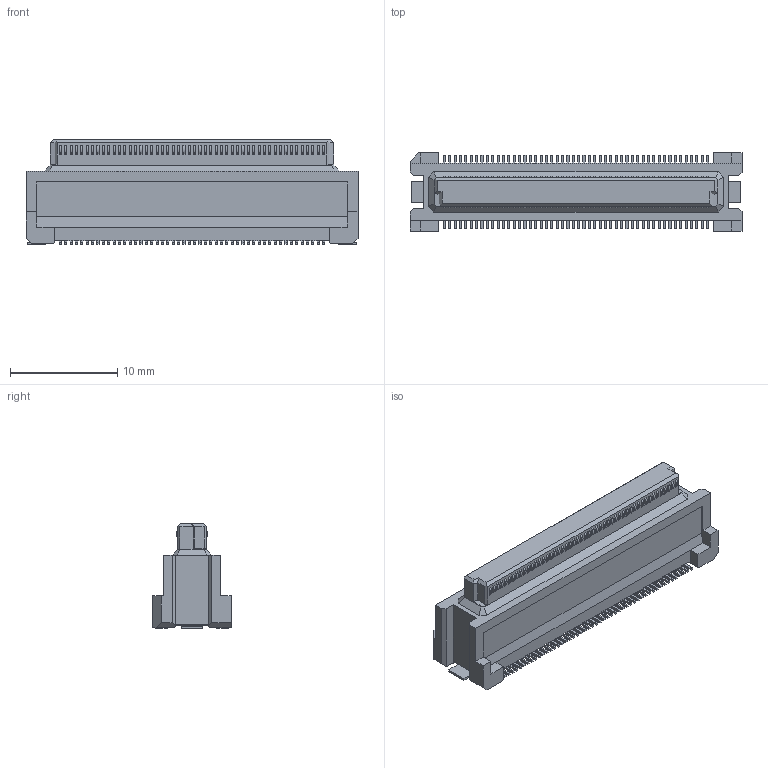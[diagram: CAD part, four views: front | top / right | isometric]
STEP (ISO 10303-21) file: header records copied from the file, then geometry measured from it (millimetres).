
FILE_DESCRIPTION(('Creo Elements/Direct Modeling STEP Export'),'2;1');
FILE_NAME('DY10-100FS-1.stp','2017-11-28T11:39:39',(''),(''),'Creo Elements/Direct Modeling STEP processor for AP214 (Solid Model)','Creo Elements/Direct Modeling 19.0F 14-Feb-2017 (C) Parametric Technology GmbH','');
FILE_SCHEMA(('AUTOMOTIVE_DESIGN { 1 0 10303 214 1 1 1 1 }'));
Products named in the file (2): DY10-100FS-1
Assembly tree (1 placements, depth 2):
  DY10-100FS-1
    DY10-100FS-1
Bounding box: 30.9 x 7.3 x 9.73 mm (x, y, z)
Volume: 1207.8 mm3; surface area: 1198.4 mm2
Topology: 1 solids, 1 shells, 2348 faces, 6689 edges, 4446 vertices
Faces by surface type: plane 1736, cylinder 604, bspline 8
Entity records: 73933 total; most frequent: CARTESIAN_POINT 14046, ORIENTED_EDGE 13378, DIRECTION 11523, EDGE_CURVE 6689, VECTOR 4997, LINE 4997, VERTEX_POINT 4446, AXIS2_PLACEMENT_3D 3263
